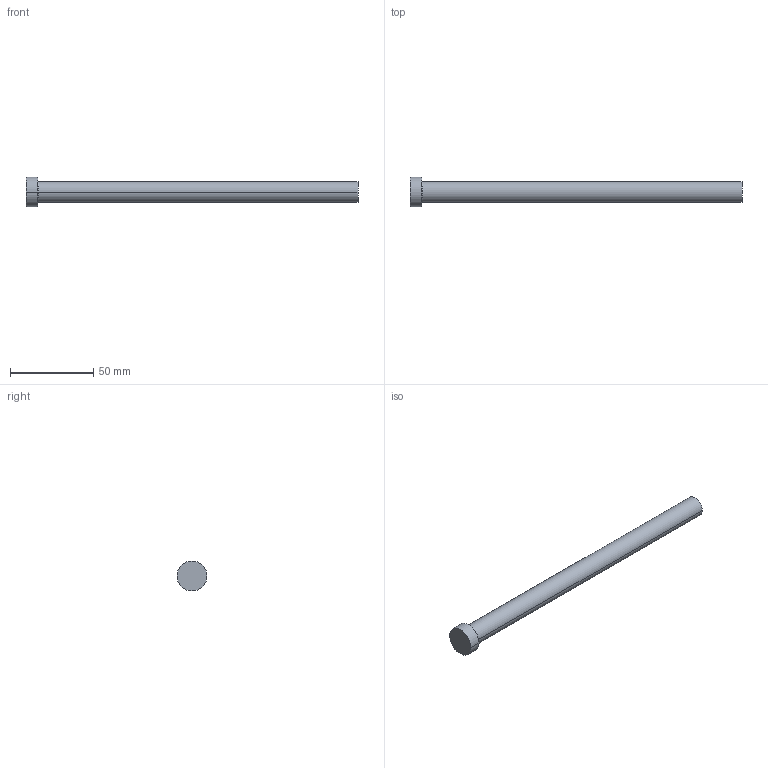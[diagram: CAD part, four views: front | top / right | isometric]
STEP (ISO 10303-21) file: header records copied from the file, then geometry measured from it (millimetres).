
FILE_DESCRIPTION (( 'STEP AP214' ), '1' );
FILE_NAME ('A-12,5x200.STEP', '2020-05-29T16:10:04', ( 'August' ), ( '' ), 'SwSTEP 2.0', 'SolidWorks 2018', '' );
FILE_SCHEMA (( 'AUTOMOTIVE_DESIGN' ));
Length unit declared in the file: millimetre
Products named in the file (1): A-12,5x200
Bounding box: 200 x 18 x 18 mm (x, y, z)
Volume: 25471.5 mm3; surface area: 8470.7 mm2
Topology: 1 solids, 1 shells, 9 faces, 16 edges, 10 vertices
Faces by surface type: cylinder 4, plane 3, torus 2
Entity records: 260 total; most frequent: DIRECTION 48, CARTESIAN_POINT 36, ORIENTED_EDGE 32, AXIS2_PLACEMENT_3D 22, EDGE_CURVE 16, CIRCLE 12, EDGE_LOOP 10, VERTEX_POINT 10
